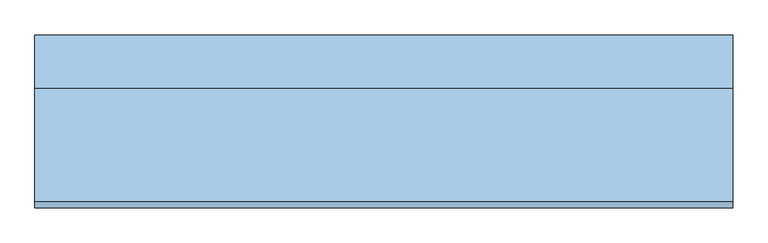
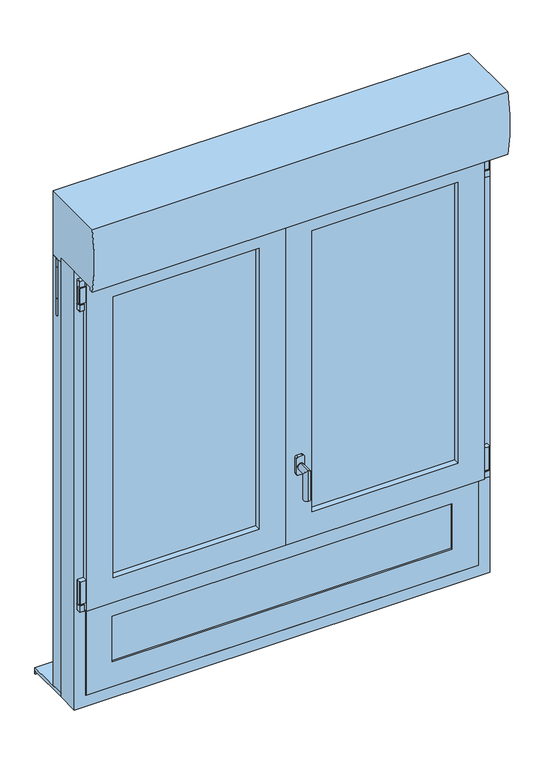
"""IFC4 building model written with IfcOpenShell, lengths in millimetres: window geometry, 7. OF2 ENR + Fixe en B PVC-ALU : 130X165 (LXH) cm."""

from ifc_helpers import new_model, si_unit, point, frame, frame_2d, origin, place, context, project, spatial, polyline, circle_curve, ellipse_curve, trimmed, segment, composite_curve, outline, extrude, faceted_brep, source, transform, mapped, element, save
from ifc_brep_helpers import plane_surface, cylinder_surface, advanced_brep


def window_a40efb40(model_context):
    return source(origin(), model_context, "Body", "SolidModel", [
        extrude(outline(composite_curve([segment(polyline([(2201.5409737, -626.552), (2219.5732983, -626.552)]), True, "CONTINUOUS"), segment(trimmed(circle_curve(frame_2d((2219.5732983, -628.5196754)), 1.9676754), [point((2219.5732983, -626.552))], [point((2221.5409737, -628.5196754))], False, "CARTESIAN"), True, "CONTINUOUS"), segment(polyline([(2221.5409737, -628.5196754), (2221.5409737, -639.5583831)]), True, "CONTINUOUS"), segment(trimmed(circle_curve(frame_2d((2219.5473568, -639.5583831)), 1.9936169), [point((2221.5409737, -639.5583831))], [point((2219.5473568, -641.552))], False, "CARTESIAN"), True, "CONTINUOUS"), segment(polyline([(2219.5473568, -641.552), (2201.5409737, -641.552), (2201.5409737, -626.552)]), True, "CONTINUOUS")], self_intersect=False)), frame((0.0, -115.0338923, 0.0), z_axis=(0.0, 1.0, 0.0), x_axis=(0.0, 0.0, 1.0)), (0.0, 0.0, 1.0), 15.0),
        extrude(outline(composite_curve([segment(trimmed(circle_curve(frame_2d((-634.2725562, -107.5434807)), 5.0), [point((-629.2725562, -107.5434807))], [point((-639.2725562, -107.5434807))], False, "CARTESIAN"), True, "CONTINUOUS"), segment(trimmed(circle_curve(frame_2d((-634.2725562, -107.5434807)), 5.0), [point((-639.2725562, -107.5434807))], [point((-629.2725562, -107.5434807))], False, "CARTESIAN"), True, "CONTINUOUS")], self_intersect=False)), frame((0.0, 0.0, 2141.5409737), z_axis=(0.0, 0.0, 1.0), x_axis=(1.0, 0.0, 0.0)), (0.0, 0.0, 1.0), 60.0),
        extrude(outline(composite_curve([segment(polyline([(-621.552, -100.0434807), (-621.552, -115.0434807), (-639.5338225, -115.0434807)]), True, "CONTINUOUS"), segment(trimmed(circle_curve(frame_2d((-639.5338225, -113.0253033)), 2.0181775), [point((-639.5338225, -115.0434807))], [point((-641.552, -113.0253033))], False, "CARTESIAN"), True, "CONTINUOUS"), segment(polyline([(-641.552, -113.0253033), (-641.552, -102.001657)]), True, "CONTINUOUS"), segment(trimmed(circle_curve(frame_2d((-639.5938237, -102.001657)), 1.9581763), [point((-641.552, -102.001657))], [point((-639.5938237, -100.0434807))], False, "CARTESIAN"), True, "CONTINUOUS"), segment(polyline([(-639.5938237, -100.0434807), (-621.552, -100.0434807)]), True, "CONTINUOUS")], self_intersect=False)), frame((0.0, 0.0, 2147.2674355), z_axis=(0.0, 0.0, 1.0), x_axis=(1.0, 0.0, 0.0)), (0.0, 0.0, 1.0), 50.0),
        extrude(outline(composite_curve([segment(polyline([(2142.2674355, -641.7725562), (2123.9176409, -641.7725562)]), True, "CONTINUOUS"), segment(trimmed(circle_curve(frame_2d((2124.2411049, -639.7988867)), 2.0), [point((2123.9176409, -641.7725562))], [point((2122.2674355, -640.1223507))], False, "CARTESIAN"), True, "CONTINUOUS"), segment(polyline([(2122.2674355, -640.1223507), (2122.2674355, -628.7818059)]), True, "CONTINUOUS"), segment(trimmed(circle_curve(frame_2d((2124.2766853, -628.7818059)), 2.0092498), [point((2122.2674355, -628.7818059))], [point((2124.2766853, -626.7725562))], False, "CARTESIAN"), True, "CONTINUOUS"), segment(polyline([(2124.2766853, -626.7725562), (2142.2674355, -626.7725562), (2142.2674355, -641.7725562)]), True, "CONTINUOUS")], self_intersect=False)), frame((0.0, -115.0338923, 0.0), z_axis=(0.0, 1.0, 0.0), x_axis=(0.0, 0.0, 1.0)), (0.0, 0.0, 1.0), 15.0),
        extrude(outline(composite_curve([segment(trimmed(circle_curve(frame_2d((-634.2725562, -107.5434807)), 5.0), [point((-629.2725562, -107.5434807))], [point((-639.2725562, -107.5434807))], False, "CARTESIAN"), True, "CONTINUOUS"), segment(trimmed(circle_curve(frame_2d((-634.2725562, -107.5434807)), 5.0), [point((-639.2725562, -107.5434807))], [point((-629.2725562, -107.5434807))], False, "CARTESIAN"), True, "CONTINUOUS")], self_intersect=False)), frame((0.0, 0.0, 1148.448), z_axis=(0.0, 0.0, 1.0), x_axis=(1.0, 0.0, 0.0)), (0.0, 0.0, 1.0), 5.0),
        extrude(outline(composite_curve([segment(polyline([(1148.448, -641.7725562), (1130.0982054, -641.7725562)]), True, "CONTINUOUS"), segment(trimmed(circle_curve(frame_2d((1130.4216694, -639.7988867)), 2.0), [point((1130.0982054, -641.7725562))], [point((1128.448, -640.1223507))], False, "CARTESIAN"), True, "CONTINUOUS"), segment(polyline([(1128.448, -640.1223507), (1128.448, -628.7818059)]), True, "CONTINUOUS"), segment(trimmed(circle_curve(frame_2d((1130.4572498, -628.7818059)), 2.0092498), [point((1128.448, -628.7818059))], [point((1130.4572498, -626.7725562))], False, "CARTESIAN"), True, "CONTINUOUS"), segment(polyline([(1130.4572498, -626.7725562), (1148.448, -626.7725562), (1148.448, -641.7725562)]), True, "CONTINUOUS")], self_intersect=False)), frame((0.0, -115.0338923, 0.0), z_axis=(0.0, 1.0, 0.0), x_axis=(0.0, 0.0, 1.0)), (0.0, 0.0, 1.0), 15.0),
        extrude(outline(composite_curve([segment(polyline([(-621.552, -100.0434807), (-621.552, -115.0434807), (-639.5338225, -115.0434807)]), True, "CONTINUOUS"), segment(trimmed(circle_curve(frame_2d((-639.5338225, -113.0253033)), 2.0181775), [point((-639.5338225, -115.0434807))], [point((-641.552, -113.0253033))], False, "CARTESIAN"), True, "CONTINUOUS"), segment(polyline([(-641.552, -113.0253033), (-641.552, -102.001657)]), True, "CONTINUOUS"), segment(trimmed(circle_curve(frame_2d((-639.5938237, -102.001657)), 1.9581763), [point((-641.552, -102.001657))], [point((-639.5938237, -100.0434807))], False, "CARTESIAN"), True, "CONTINUOUS"), segment(polyline([(-639.5938237, -100.0434807), (-621.552, -100.0434807)]), True, "CONTINUOUS")], self_intersect=False)), frame((0.0, 0.0, 1153.448), z_axis=(0.0, 0.0, 1.0), x_axis=(1.0, 0.0, 0.0)), (0.0, 0.0, 1.0), 75.0),
        extrude(outline(composite_curve([segment(polyline([(2201.5409737, 626.552), (2201.5409737, 641.552), (2219.5473568, 641.552)]), True, "CONTINUOUS"), segment(trimmed(circle_curve(frame_2d((2219.5473568, 639.5583831)), 1.9936169), [point((2219.5473568, 641.552))], [point((2221.5409737, 639.5583831))], False, "CARTESIAN"), True, "CONTINUOUS"), segment(polyline([(2221.5409737, 639.5583831), (2221.5409737, 628.5196754)]), True, "CONTINUOUS"), segment(trimmed(circle_curve(frame_2d((2219.5732983, 628.5196754)), 1.9676754), [point((2221.5409737, 628.5196754))], [point((2219.5732983, 626.552))], False, "CARTESIAN"), True, "CONTINUOUS"), segment(polyline([(2219.5732983, 626.552), (2201.5409737, 626.552)]), True, "CONTINUOUS")], self_intersect=False)), frame((0.0, -115.0338923, 0.0), z_axis=(0.0, 1.0, 0.0), x_axis=(0.0, 0.0, 1.0)), (0.0, 0.0, 1.0), 15.0),
        extrude(outline(composite_curve([segment(trimmed(circle_curve(frame_2d((634.2725562, -107.5434807)), 5.0), [point((629.2725562, -107.5434807))], [point((639.2725562, -107.5434807))], False, "CARTESIAN"), True, "CONTINUOUS"), segment(trimmed(circle_curve(frame_2d((634.2725562, -107.5434807)), 5.0), [point((639.2725562, -107.5434807))], [point((629.2725562, -107.5434807))], False, "CARTESIAN"), True, "CONTINUOUS")], self_intersect=False)), frame((0.0, 0.0, 2141.5409737), z_axis=(0.0, 0.0, 1.0), x_axis=(1.0, 0.0, 0.0)), (0.0, 0.0, 1.0), 60.0),
        extrude(outline(composite_curve([segment(polyline([(621.552, -100.0434807), (639.5938237, -100.0434807)]), True, "CONTINUOUS"), segment(trimmed(circle_curve(frame_2d((639.5938237, -102.001657)), 1.9581763), [point((639.5938237, -100.0434807))], [point((641.552, -102.001657))], False, "CARTESIAN"), True, "CONTINUOUS"), segment(polyline([(641.552, -102.001657), (641.552, -113.0253033)]), True, "CONTINUOUS"), segment(trimmed(circle_curve(frame_2d((639.5338225, -113.0253033)), 2.0181775), [point((641.552, -113.0253033))], [point((639.5338225, -115.0434807))], False, "CARTESIAN"), True, "CONTINUOUS"), segment(polyline([(639.5338225, -115.0434807), (621.552, -115.0434807), (621.552, -100.0434807)]), True, "CONTINUOUS")], self_intersect=False)), frame((0.0, 0.0, 2147.2674355), z_axis=(0.0, 0.0, 1.0), x_axis=(1.0, 0.0, 0.0)), (0.0, 0.0, 1.0), 50.0),
        extrude(outline(composite_curve([segment(polyline([(2142.2674355, 641.7725562), (2142.2674355, 626.7725562), (2124.2766853, 626.7725562)]), True, "CONTINUOUS"), segment(trimmed(circle_curve(frame_2d((2124.2766853, 628.7818059)), 2.0092498), [point((2124.2766853, 626.7725562))], [point((2122.2674355, 628.7818059))], False, "CARTESIAN"), True, "CONTINUOUS"), segment(polyline([(2122.2674355, 628.7818059), (2122.2674355, 640.1223507)]), True, "CONTINUOUS"), segment(trimmed(circle_curve(frame_2d((2124.2411049, 639.7988867)), 2.0), [point((2122.2674355, 640.1223507))], [point((2123.9176409, 641.7725562))], False, "CARTESIAN"), True, "CONTINUOUS"), segment(polyline([(2123.9176409, 641.7725562), (2142.2674355, 641.7725562)]), True, "CONTINUOUS")], self_intersect=False)), frame((0.0, -115.0338923, 0.0), z_axis=(0.0, 1.0, 0.0), x_axis=(0.0, 0.0, 1.0)), (0.0, 0.0, 1.0), 15.0),
        extrude(outline(composite_curve([segment(trimmed(circle_curve(frame_2d((634.2725562, -107.5434807)), 5.0), [point((629.2725562, -107.5434807))], [point((639.2725562, -107.5434807))], False, "CARTESIAN"), True, "CONTINUOUS"), segment(trimmed(circle_curve(frame_2d((634.2725562, -107.5434807)), 5.0), [point((639.2725562, -107.5434807))], [point((629.2725562, -107.5434807))], False, "CARTESIAN"), True, "CONTINUOUS")], self_intersect=False)), frame((0.0, 0.0, 1148.448), z_axis=(0.0, 0.0, 1.0), x_axis=(1.0, 0.0, 0.0)), (0.0, 0.0, 1.0), 5.0),
        extrude(outline(composite_curve([segment(polyline([(1148.448, 641.7725562), (1148.448, 626.7725562), (1130.4572498, 626.7725562)]), True, "CONTINUOUS"), segment(trimmed(circle_curve(frame_2d((1130.4572498, 628.7818059)), 2.0092498), [point((1130.4572498, 626.7725562))], [point((1128.448, 628.7818059))], False, "CARTESIAN"), True, "CONTINUOUS"), segment(polyline([(1128.448, 628.7818059), (1128.448, 640.1223507)]), True, "CONTINUOUS"), segment(trimmed(circle_curve(frame_2d((1130.4216694, 639.7988867)), 2.0), [point((1128.448, 640.1223507))], [point((1130.0982054, 641.7725562))], False, "CARTESIAN"), True, "CONTINUOUS"), segment(polyline([(1130.0982054, 641.7725562), (1148.448, 641.7725562)]), True, "CONTINUOUS")], self_intersect=False)), frame((0.0, -115.0338923, 0.0), z_axis=(0.0, 1.0, 0.0), x_axis=(0.0, 0.0, 1.0)), (0.0, 0.0, 1.0), 15.0),
        extrude(outline(composite_curve([segment(polyline([(621.552, -100.0434807), (639.5938237, -100.0434807)]), True, "CONTINUOUS"), segment(trimmed(circle_curve(frame_2d((639.5938237, -102.001657)), 1.9581763), [point((639.5938237, -100.0434807))], [point((641.552, -102.001657))], False, "CARTESIAN"), True, "CONTINUOUS"), segment(polyline([(641.552, -102.001657), (641.552, -113.0253033)]), True, "CONTINUOUS"), segment(trimmed(circle_curve(frame_2d((639.5338225, -113.0253033)), 2.0181775), [point((641.552, -113.0253033))], [point((639.5338225, -115.0434807))], False, "CARTESIAN"), True, "CONTINUOUS"), segment(polyline([(639.5338225, -115.0434807), (621.552, -115.0434807), (621.552, -100.0434807)]), True, "CONTINUOUS")], self_intersect=False)), frame((0.0, 0.0, 1153.448), z_axis=(0.0, 0.0, 1.0), x_axis=(1.0, 0.0, 0.0)), (0.0, 0.0, 1.0), 75.0),
        faceted_brep([(649.992, -28.9, 2250.0), (649.992, -100.02, 2250.0), (649.992, -100.02, 800.0), (649.992, -28.9, 800.0), (-650.008, -100.02, 2250.0), (-650.008, -100.02, 800.0), (613.416, -100.02, 836.576), (-613.432, -100.02, 836.576), (-613.432, -100.02, 2213.424), (613.416, -100.02, 2213.424), (-650.008, -28.9, 800.0), (-650.008, -28.9, 2250.0), (592.0903858, -28.9, 2192.0983858), (-592.1063858, -28.9, 2192.0983858), (-592.1063858, -28.9, 857.9016142), (592.0903858, -28.9, 857.9016142), (613.416, -44.648, 2213.424), (613.416, -44.648, 836.576), (-613.432, -44.648, 2213.424), (-613.432, -44.648, 836.576), (592.0903858, -44.648, 857.9016142), (-592.1063858, -44.648, 857.9016142), (-592.1063858, -44.648, 2192.0983858), (592.0903858, -44.648, 2192.0983858)], [[[0, 1, 2, 3]], [[1, 4, 5, 2], [6, 7, 8, 9]], [[3, 2, 5, 10]], [[3, 10, 11, 0], [12, 13, 14, 15]], [[9, 16, 17, 6]], [[16, 18, 19, 17], [20, 21, 22, 23]], [[6, 17, 19, 7]], [[23, 12, 15, 20]], [[20, 15, 14, 21]], [[10, 5, 4, 11]], [[7, 19, 18, 8]], [[21, 14, 13, 22]], [[11, 4, 1, 0]], [[8, 18, 16, 9]], [[22, 13, 12, 23]]]),
        faceted_brep([(-650.0, -100.02, 2250.0), (-650.0, -28.9, 2250.0), (-650.0, -28.9, 800.0), (-650.0, -100.02, 800.0), (650.0, -28.9, 2250.0), (650.0, -28.9, 800.0), (-592.0983858, -28.9, 857.9016142), (592.0983858, -28.9, 857.9016142), (592.0983858, -28.9, 2192.0983858), (-592.0983858, -28.9, 2192.0983858), (650.0, -100.02, 800.0), (650.0, -100.02, 2250.0), (-613.424, -100.02, 2213.424), (613.424, -100.02, 2213.424), (613.424, -100.02, 836.576), (-613.424, -100.02, 836.576), (-613.424, -44.648, 2213.424), (-613.424, -44.648, 836.576), (613.424, -44.648, 836.576), (613.424, -44.648, 2213.424), (-592.0983858, -44.648, 2192.0983858), (592.0983858, -44.648, 2192.0983858), (592.0983858, -44.648, 857.9016142), (-592.0983858, -44.648, 857.9016142)], [[[0, 1, 2, 3]], [[1, 4, 5, 2], [6, 7, 8, 9]], [[3, 2, 5, 10]], [[3, 10, 11, 0], [12, 13, 14, 15]], [[16, 12, 15, 17]], [[17, 15, 14, 18]], [[17, 18, 19, 16], [20, 21, 22, 23]], [[9, 20, 23, 6]], [[6, 23, 22, 7]], [[10, 5, 4, 11]], [[18, 14, 13, 19]], [[7, 22, 21, 8]], [[11, 4, 1, 0]], [[19, 13, 12, 16]], [[8, 21, 20, 9]]]),
        extrude(outline(polyline([(35.0, -44.7), (20.3, -44.7), (20.3, -100.3), (-20.3, -100.3), (-20.3, -44.7), (-35.0, -44.7), (-35.0, -28.9), (35.0, -28.9), (35.0, -44.7)])), frame((0.0, 0.0, 1150.8582947), z_axis=(0.0, 0.0, 1.0), x_axis=(1.0, 0.0, 0.0)), (0.0, 0.0, 1.0), 1064.7),
        faceted_brep([(0.004, -100.0434807, 2221.552), (0.004, -119.3239543, 2221.552), (0.004, -119.3239543, 1128.448), (0.004, -100.0434807, 1128.448), (-82.1974957, -119.3239543, 2139.3505043), (-82.1974957, -100.019954, 2139.3505043), (-82.1974957, -100.019954, 1210.6494957), (-82.1974957, -119.3239543, 1210.6494957), (-59.9393299, -100.019954, 2161.6086701), (-59.9393299, -48.2039543, 2161.6086701), (-59.9393299, -48.2039543, 1188.3913299), (-59.9393299, -100.019954, 1188.3913299), (-29.4496142, -48.2039543, 2192.0983858), (-29.4496142, -44.648, 2192.0983858), (-29.4496142, -44.648, 1157.9016142), (-29.4496142, -48.2039543, 1157.9016142), (-20.316, -44.648, 2201.232), (-20.316, -100.0434807, 2201.232), (-20.316, -100.0434807, 1148.768), (-20.316, -44.648, 1148.768), (-621.552, -119.3239543, 1128.448), (-621.552, -100.0434807, 1128.448), (-539.3505043, -100.019954, 1210.6494957), (-539.3505043, -119.3239543, 1210.6494957), (-561.6086701, -48.2039543, 1188.3913299), (-561.6086701, -100.019954, 1188.3913299), (-592.0983858, -44.648, 1157.9016142), (-592.0983858, -48.2039543, 1157.9016142), (-601.232, -100.0434807, 1148.768), (-601.232, -44.648, 1148.768), (-621.552, -119.3239543, 2221.552), (-621.552, -100.0434807, 2221.552), (-539.3505043, -100.019954, 2139.3505043), (-539.3505043, -119.3239543, 2139.3505043), (-561.6086701, -48.2039543, 2161.6086701), (-561.6086701, -100.019954, 2161.6086701), (-592.0983858, -44.648, 2192.0983858), (-592.0983858, -48.2039543, 2192.0983858), (-601.232, -100.0434807, 2201.232), (-601.232, -44.648, 2201.232)], [[[0, 1, 2, 3]], [[4, 5, 6, 7]], [[8, 9, 10, 11]], [[12, 13, 14, 15]], [[16, 17, 18, 19]], [[3, 2, 20, 21]], [[7, 6, 22, 23]], [[11, 10, 24, 25]], [[15, 14, 26, 27]], [[19, 18, 28, 29]], [[21, 20, 30, 31]], [[23, 22, 32, 33]], [[25, 24, 34, 35]], [[27, 26, 36, 37]], [[29, 28, 38, 39]], [[3, 21, 31, 0], [17, 38, 28, 18]], [[31, 30, 1, 0]], [[1, 30, 20, 2], [7, 23, 33, 4]], [[33, 32, 5, 4]], [[11, 25, 35, 8], [5, 32, 22, 6]], [[35, 34, 9, 8]], [[15, 27, 37, 12], [9, 34, 24, 10]], [[37, 36, 13, 12]], [[19, 29, 39, 16], [13, 36, 26, 14]], [[39, 38, 17, 16]]]),
        faceted_brep([(-561.6086701, -100.019954, 2161.6086701), (-561.6086701, -48.2039543, 2161.6086701), (-561.6086701, -48.2039543, 1188.3913299), (-561.6086701, -100.019954, 1188.3913299), (-586.5514701, -48.2039543, 2186.5514701), (-586.5514701, -28.7475756, 2186.5514701), (-586.5514701, -28.7475756, 1163.4485299), (-586.5514701, -48.2039543, 1163.4485299), (-535.3393386, -28.7475756, 2135.3393386), (-535.3393386, -41.9786213, 2135.3393386), (-535.3393386, -41.9786213, 1214.6606614), (-535.3393386, -28.7475756, 1214.6606614), (-539.5240492, -72.9786213, 2139.5240492), (-539.5240492, -96.019954, 2139.5240492), (-539.5240492, -96.019954, 1210.4759508), (-539.5240492, -72.9786213, 1210.4759508), (-59.9393299, -48.2039543, 1188.3913299), (-59.9393299, -100.019954, 1188.3913299), (-34.9965299, -28.7475756, 1163.4485299), (-34.9965299, -48.2039543, 1163.4485299), (-86.2086614, -41.9786213, 1214.6606614), (-86.2086614, -28.7475756, 1214.6606614), (-82.0239508, -96.019954, 1210.4759508), (-82.0239508, -72.9786213, 1210.4759508), (-59.9393299, -48.2039543, 2161.6086701), (-59.9393299, -100.019954, 2161.6086701), (-34.9965299, -28.7475756, 2186.5514701), (-34.9965299, -48.2039543, 2186.5514701), (-86.2086614, -41.9786213, 2135.3393386), (-86.2086614, -28.7475756, 2135.3393386), (-82.0239508, -96.019954, 2139.5240492), (-82.0239508, -72.9786213, 2139.5240492), (-553.4175117, -100.019954, 2153.4175117), (-68.1304883, -100.019954, 2153.4175117), (-68.1304883, -100.019954, 1196.5824883), (-553.4175117, -100.019954, 1196.5824883), (-553.4175117, -72.9786213, 2153.4175117), (-68.1304883, -72.9786213, 2153.4175117), (-68.1304883, -72.9786213, 1196.5824883), (-553.4175117, -72.9786213, 1196.5824883), (-553.4175117, -96.019954, 2153.4175117), (-553.4175117, -96.019954, 1196.5824883), (-553.4175117, -68.9786213, 2153.4175117), (-553.4175117, -68.9786213, 1196.5824883), (-68.1304883, -96.019954, 1196.5824883), (-68.1304883, -68.9786213, 1196.5824883), (-68.1304883, -96.019954, 2153.4175117), (-68.1304883, -68.9786213, 2153.4175117), (-536.1974041, -68.9786213, 2136.1974041), (-85.3505959, -68.9786213, 2136.1974041), (-85.3505959, -68.9786213, 1213.8025959), (-536.1974041, -68.9786213, 1213.8025959), (-553.4175117, -41.9786213, 2153.4175117), (-553.4175117, -45.9786213, 2153.4175117), (-553.4175117, -45.9786213, 1196.5824883), (-553.4175117, -41.9786213, 1196.5824883), (-536.1974041, -45.9786213, 2136.1974041), (-536.1974041, -45.9786213, 1213.8025959), (-68.1304883, -45.9786213, 1196.5824883), (-68.1304883, -41.9786213, 1196.5824883), (-85.3505959, -45.9786213, 1213.8025959), (-68.1304883, -45.9786213, 2153.4175117), (-68.1304883, -41.9786213, 2153.4175117), (-85.3505959, -45.9786213, 2136.1974041)], [[[0, 1, 2, 3]], [[4, 5, 6, 7]], [[8, 9, 10, 11]], [[12, 13, 14, 15]], [[3, 2, 16, 17]], [[7, 6, 18, 19]], [[11, 10, 20, 21]], [[15, 14, 22, 23]], [[17, 16, 24, 25]], [[19, 18, 26, 27]], [[21, 20, 28, 29]], [[23, 22, 30, 31]], [[3, 17, 25, 0], [32, 33, 34, 35]], [[25, 24, 1, 0]], [[7, 19, 27, 4], [1, 24, 16, 2]], [[27, 26, 5, 4]], [[5, 26, 18, 6], [11, 21, 29, 8]], [[29, 28, 9, 8]], [[36, 37, 38, 39], [15, 23, 31, 12]], [[31, 30, 13, 12]], [[40, 32, 35, 41]], [[42, 36, 39, 43]], [[41, 35, 34, 44]], [[43, 39, 38, 45]], [[44, 34, 33, 46]], [[45, 38, 37, 47]], [[41, 44, 46, 40], [13, 30, 22, 14]], [[46, 33, 32, 40]], [[43, 45, 47, 42], [48, 49, 50, 51]], [[47, 37, 36, 42]], [[52, 53, 54, 55]], [[56, 48, 51, 57]], [[55, 54, 58, 59]], [[57, 51, 50, 60]], [[59, 58, 61, 62]], [[60, 50, 49, 63]], [[55, 59, 62, 52], [9, 28, 20, 10]], [[62, 61, 53, 52]], [[53, 61, 58, 54], [57, 60, 63, 56]], [[63, 49, 48, 56]]]),
        extrude(outline(polyline([(-553.4, -100.019954), (-553.4, -96.019954), (-68.1, -96.019954), (-68.1, -100.019954), (-553.4, -100.019954)])), frame((0.0, 0.0, 1196.5824883), z_axis=(0.0, 0.0, 1.0), x_axis=(1.0, 0.0, 0.0)), (0.0, 0.0, 1.0), 956.8350233),
        extrude(outline(polyline([(-553.4, -72.9786213), (-553.4, -68.9786213), (-68.1, -68.9786213), (-68.1, -72.9786213), (-553.4, -72.9786213)])), frame((0.0, 0.0, 1196.5824883), z_axis=(0.0, 0.0, 1.0), x_axis=(1.0, 0.0, 0.0)), (0.0, 0.0, 1.0), 956.8350233),
        extrude(outline(polyline([(-553.4, -45.9786213), (-553.4, -41.9786213), (-68.1, -41.9786213), (-68.1, -45.9786213), (-553.4, -45.9786213)])), frame((0.0, 0.0, 1196.5824883), z_axis=(0.0, 0.0, 1.0), x_axis=(1.0, 0.0, 0.0)), (0.0, 0.0, 1.0), 956.8350233),
        extrude(outline(polyline([(553.4, -96.019954), (553.4, -100.019954), (68.1, -100.019954), (68.1, -96.019954), (553.4, -96.019954)])), frame((0.0, 0.0, 1196.5824883), z_axis=(0.0, 0.0, 1.0), x_axis=(1.0, 0.0, 0.0)), (0.0, 0.0, 1.0), 956.8350233),
        extrude(outline(polyline([(553.4, -68.9786213), (553.4, -72.9786213), (68.1, -72.9786213), (68.1, -68.9786213), (553.4, -68.9786213)])), frame((0.0, 0.0, 1196.5824883), z_axis=(0.0, 0.0, 1.0), x_axis=(1.0, 0.0, 0.0)), (0.0, 0.0, 1.0), 956.8350233),
        extrude(outline(polyline([(553.4, -41.9786213), (553.4, -45.9786213), (68.1, -45.9786213), (68.1, -41.9786213), (553.4, -41.9786213)])), frame((0.0, 0.0, 1196.5824883), z_axis=(0.0, 0.0, 1.0), x_axis=(1.0, 0.0, 0.0)), (0.0, 0.0, 1.0), 956.8350233),
        faceted_brep([(561.6086701, -48.2039543, 2161.6086701), (561.6086701, -100.019954, 2161.6086701), (561.6086701, -100.019954, 1188.3913299), (561.6086701, -48.2039543, 1188.3913299), (586.5514701, -28.7475756, 2186.5514701), (586.5514701, -48.2039543, 2186.5514701), (586.5514701, -48.2039543, 1163.4485299), (586.5514701, -28.7475756, 1163.4485299), (535.3393386, -41.9786213, 2135.3393386), (535.3393386, -28.7475756, 2135.3393386), (535.3393386, -28.7475756, 1214.6606614), (535.3393386, -41.9786213, 1214.6606614), (539.5240492, -96.019954, 2139.5240492), (539.5240492, -72.9786213, 2139.5240492), (539.5240492, -72.9786213, 1210.4759508), (539.5240492, -96.019954, 1210.4759508), (59.9393299, -100.019954, 1188.3913299), (59.9393299, -48.2039543, 1188.3913299), (34.9965299, -48.2039543, 1163.4485299), (34.9965299, -28.7475756, 1163.4485299), (86.2086614, -28.7475756, 1214.6606614), (86.2086614, -41.9786213, 1214.6606614), (82.0239508, -72.9786213, 1210.4759508), (82.0239508, -96.019954, 1210.4759508), (59.9393299, -100.019954, 2161.6086701), (59.9393299, -48.2039543, 2161.6086701), (34.9965299, -48.2039543, 2186.5514701), (34.9965299, -28.7475756, 2186.5514701), (86.2086614, -28.7475756, 2135.3393386), (86.2086614, -41.9786213, 2135.3393386), (82.0239508, -72.9786213, 2139.5240492), (82.0239508, -96.019954, 2139.5240492), (553.4175117, -100.019954, 1196.5824883), (68.1304883, -100.019954, 1196.5824883), (68.1304883, -100.019954, 2153.4175117), (553.4175117, -100.019954, 2153.4175117), (553.4175117, -72.9786213, 1196.5824883), (68.1304883, -72.9786213, 1196.5824883), (68.1304883, -72.9786213, 2153.4175117), (553.4175117, -72.9786213, 2153.4175117), (553.4175117, -96.019954, 2153.4175117), (553.4175117, -96.019954, 1196.5824883), (553.4175117, -68.9786213, 2153.4175117), (553.4175117, -68.9786213, 1196.5824883), (68.1304883, -96.019954, 1196.5824883), (68.1304883, -68.9786213, 1196.5824883), (68.1304883, -96.019954, 2153.4175117), (68.1304883, -68.9786213, 2153.4175117), (536.1974041, -68.9786213, 1213.8025959), (85.3505959, -68.9786213, 1213.8025959), (85.3505959, -68.9786213, 2136.1974041), (536.1974041, -68.9786213, 2136.1974041), (553.4175117, -45.9786213, 2153.4175117), (553.4175117, -41.9786213, 2153.4175117), (553.4175117, -41.9786213, 1196.5824883), (553.4175117, -45.9786213, 1196.5824883), (536.1974041, -45.9786213, 2136.1974041), (536.1974041, -45.9786213, 1213.8025959), (68.1304883, -41.9786213, 1196.5824883), (68.1304883, -45.9786213, 1196.5824883), (85.3505959, -45.9786213, 1213.8025959), (68.1304883, -41.9786213, 2153.4175117), (68.1304883, -45.9786213, 2153.4175117), (85.3505959, -45.9786213, 2136.1974041)], [[[0, 1, 2, 3]], [[4, 5, 6, 7]], [[8, 9, 10, 11]], [[12, 13, 14, 15]], [[3, 2, 16, 17]], [[7, 6, 18, 19]], [[11, 10, 20, 21]], [[15, 14, 22, 23]], [[17, 16, 24, 25]], [[19, 18, 26, 27]], [[21, 20, 28, 29]], [[23, 22, 30, 31]], [[1, 24, 16, 2], [32, 33, 34, 35]], [[25, 24, 1, 0]], [[5, 26, 18, 6], [3, 17, 25, 0]], [[27, 26, 5, 4]], [[7, 19, 27, 4], [9, 28, 20, 10]], [[29, 28, 9, 8]], [[36, 37, 38, 39], [13, 30, 22, 14]], [[31, 30, 13, 12]], [[35, 40, 41, 32]], [[39, 42, 43, 36]], [[32, 41, 44, 33]], [[36, 43, 45, 37]], [[33, 44, 46, 34]], [[37, 45, 47, 38]], [[40, 46, 44, 41], [15, 23, 31, 12]], [[34, 46, 40, 35]], [[42, 47, 45, 43], [48, 49, 50, 51]], [[38, 47, 42, 39]], [[52, 53, 54, 55]], [[51, 56, 57, 48]], [[55, 54, 58, 59]], [[48, 57, 60, 49]], [[59, 58, 61, 62]], [[49, 60, 63, 50]], [[53, 61, 58, 54], [11, 21, 29, 8]], [[62, 61, 53, 52]], [[55, 59, 62, 52], [56, 63, 60, 57]], [[50, 63, 56, 51]]]),
        faceted_brep([(-0.004, -119.3239543, 2221.552), (-0.004, -100.0434807, 2221.552), (-0.004, -100.0434807, 1128.448), (-0.004, -119.3239543, 1128.448), (82.1974957, -100.019954, 2139.3505043), (82.1974957, -119.3239543, 2139.3505043), (82.1974957, -119.3239543, 1210.6494957), (82.1974957, -100.019954, 1210.6494957), (59.9393299, -48.2039543, 2161.6086701), (59.9393299, -100.019954, 2161.6086701), (59.9393299, -100.019954, 1188.3913299), (59.9393299, -48.2039543, 1188.3913299), (29.4496142, -44.648, 2192.0983858), (29.4496142, -48.2039543, 2192.0983858), (29.4496142, -48.2039543, 1157.9016142), (29.4496142, -44.648, 1157.9016142), (20.316, -100.0434807, 2201.232), (20.316, -44.648, 2201.232), (20.316, -44.648, 1148.768), (20.316, -100.0434807, 1148.768), (621.552, -100.0434807, 1128.448), (621.552, -119.3239543, 1128.448), (539.3505043, -119.3239543, 1210.6494957), (539.3505043, -100.019954, 1210.6494957), (561.6086701, -100.019954, 1188.3913299), (561.6086701, -48.2039543, 1188.3913299), (592.0983858, -48.2039543, 1157.9016142), (592.0983858, -44.648, 1157.9016142), (601.232, -44.648, 1148.768), (601.232, -100.0434807, 1148.768), (621.552, -100.0434807, 2221.552), (621.552, -119.3239543, 2221.552), (539.3505043, -119.3239543, 2139.3505043), (539.3505043, -100.019954, 2139.3505043), (561.6086701, -100.019954, 2161.6086701), (561.6086701, -48.2039543, 2161.6086701), (592.0983858, -48.2039543, 2192.0983858), (592.0983858, -44.648, 2192.0983858), (601.232, -44.648, 2201.232), (601.232, -100.0434807, 2201.232)], [[[0, 1, 2, 3]], [[4, 5, 6, 7]], [[8, 9, 10, 11]], [[12, 13, 14, 15]], [[16, 17, 18, 19]], [[3, 2, 20, 21]], [[7, 6, 22, 23]], [[11, 10, 24, 25]], [[15, 14, 26, 27]], [[19, 18, 28, 29]], [[21, 20, 30, 31]], [[23, 22, 32, 33]], [[25, 24, 34, 35]], [[27, 26, 36, 37]], [[29, 28, 38, 39]], [[1, 30, 20, 2], [19, 29, 39, 16]], [[31, 30, 1, 0]], [[3, 21, 31, 0], [5, 32, 22, 6]], [[33, 32, 5, 4]], [[9, 34, 24, 10], [7, 23, 33, 4]], [[35, 34, 9, 8]], [[13, 36, 26, 14], [11, 25, 35, 8]], [[37, 36, 13, 12]], [[17, 38, 28, 18], [15, 27, 37, 12]], [[39, 38, 17, 16]]]),
        extrude(outline(composite_curve([segment(polyline([(-186.3991192, 2240.3409737), (-197.3316724, 2240.3409737)]), True, "CONTINUOUS"), segment(trimmed(circle_curve(frame_2d((189.1050523, 2343.6204869)), 400.0), [point((-197.3316724, 2240.3409737))], [point((-197.3316724, 2446.9))], False, "CARTESIAN"), True, "CONTINUOUS"), segment(polyline([(-197.3316724, 2446.9), (13.0999994, 2446.9), (13.0999994, 2236.0216226), (-4.9499979, 2236.0216226), (-4.9499979, 2234.2216225), (-2.7215215, 2234.2216225), (-2.7215215, 2209.9791617), (-4.9499979, 2209.9791617), (-4.9499979, 2208.1791616), (-2.7215215, 2208.1791616), (-2.7215215, 2183.9367008), (-4.9499979, 2183.9367008), (-4.9499979, 2182.1367006), (-2.7215215, 2182.1367006), (-2.7215215, 2157.8942398), (-4.9499979, 2157.8942398), (-4.9499979, 2156.0942397), (-2.7215215, 2156.0942397), (-2.7215215, 2131.8517789), (-4.9499979, 2131.8517789), (-4.9499979, 2130.0517788), (-2.7215215, 2130.0517788), (-2.7215215, 2105.809318), (-4.9499979, 2105.809318), (-4.9499979, 2104.0093179), (-2.7215215, 2104.0093179), (-2.7215215, 2079.7668571), (-4.9499979, 2079.7668571), (-4.9499979, 2077.966857), (-2.7215215, 2077.966857), (-2.7215215, 2053.7243961), (-4.9499979, 2053.7243961), (-4.9499979, 2051.9243963), (-3.044091, 2051.9243963), (-3.044091, 2048.977424), (-6.4, 2045.6232688), (-9.8999992, 2048.9774251), (-9.8999992, 2051.9243963), (-7.7499979, 2051.9243963), (-7.7499979, 2053.7243961), (-9.9999979, 2053.7243961), (-9.9999979, 2077.9668572), (-7.7499979, 2077.9668572), (-7.7499979, 2079.7668571), (-9.9999979, 2079.7668571), (-9.9999979, 2104.0093181), (-7.7499979, 2104.0093181), (-7.7499979, 2105.809318), (-9.9999979, 2105.809318), (-9.9999979, 2130.051779), (-7.7499979, 2130.051779), (-7.7499979, 2131.8517789), (-9.9999979, 2131.8517789), (-9.9999979, 2156.09424), (-7.7499979, 2156.09424), (-7.7499979, 2157.8942398), (-9.9999979, 2157.8942398), (-9.9999979, 2182.1367009), (-7.7499979, 2182.1367009), (-7.7499979, 2183.9367008), (-9.9999979, 2183.9367008), (-9.9999979, 2208.1791618), (-7.7499979, 2208.1791618), (-7.7499979, 2209.9791617), (-9.9999979, 2209.9791617), (-9.9999979, 2234.2216227), (-7.7499979, 2234.2216227), (-7.7499979, 2236.0216226), (-28.9, 2236.0216226), (-28.9, 2250.0), (-186.3991192, 2250.0), (-186.3991192, 2240.3409737)]), True, "CONTINUOUS")], self_intersect=False)), frame((-650.008, 0.0, 0.0), z_axis=(1.0, 0.0, 0.0), x_axis=(0.0, 1.0, 0.0)), (0.0, 0.0, 1.0), 1300.008),
        advanced_brep(
        [(41.6731873, -129.3239543, 1392.2518349), (41.6731873, -129.3239543, 1372.2518349), (41.6731873, -133.0531938, 1372.2518349), (41.6731873, -133.0531938, 1392.2518349), (41.6731873, -173.0531938, 1392.2518349), (41.6731873, -153.0531938, 1372.2518349), (41.6731873, -173.0531938, 1292.2518349), (41.6731873, -153.0531938, 1292.2518349)],
        [
            (0, 1, circle_curve(frame((41.6731873, -129.3239543, 1382.2518349), z_axis=(0.0, 1.0, 0.0), x_axis=(0.0, 0.0, -1.0)), 10.0)),
            (1, 0, circle_curve(frame((41.6731873, -129.3239543, 1382.2518349), z_axis=(0.0, 1.0, 0.0), x_axis=(0.0, 0.0, -1.0)), 10.0)),
            (2, 3, circle_curve(frame((41.6731873, -133.0531938, 1382.2518349), z_axis=(0.0, -1.0, 0.0), x_axis=(0.0, 0.0, -1.0)), 10.0)),
            (3, 4),
            (4, 5, ellipse_curve(frame((41.6731873, -163.0531938, 1382.2518349), z_axis=(0.0, 0.7071067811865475, 0.7071067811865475), x_axis=(0.0, 0.7071067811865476, -0.7071067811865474)), 14.1421356, 10.0)),
            (5, 2),
            (3, 2, circle_curve(frame((41.6731873, -133.0531938, 1382.2518349), z_axis=(0.0, -1.0, 0.0), x_axis=(0.0, 0.0, -1.0)), 10.0)),
            (5, 4, ellipse_curve(frame((41.6731873, -163.0531938, 1382.2518349), z_axis=(0.0, 0.7071067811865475, 0.7071067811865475), x_axis=(0.0, 0.7071067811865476, -0.7071067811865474)), 14.1421356, 10.0)),
            (6, 7, circle_curve(frame((41.6731873, -163.0531938, 1292.2518349), z_axis=(0.0, 0.0, -1.0), x_axis=(0.0, 1.0, 0.0)), 10.0)),
            (7, 6, circle_curve(frame((41.6731873, -163.0531938, 1292.2518349), z_axis=(0.0, 0.0, -1.0), x_axis=(0.0, 1.0, 0.0)), 10.0)),
            (4, 6),
            (7, 5),
            (0, 3),
            (2, 1),
        ],
        [
            plane_surface(frame((53.896, -129.3239543, 1382.2518349), z_axis=(0.0, 1.0, 0.0), x_axis=(1.0, 0.0, 0.0))),
            cylinder_surface(frame((41.6731873, -133.0531938, 1382.2518349), z_axis=(0.0, 1.0, 0.0), x_axis=(0.0, 0.0, -1.0)), 10.0),
            plane_surface(frame((53.896, -163.0531938, 1292.2518349), z_axis=(0.0, 0.0, -1.0), x_axis=(1.0, 0.0, 0.0))),
            cylinder_surface(frame((41.6731873, -163.0531938, 1382.2518349), z_axis=(0.0, 0.0, 1.0), x_axis=(0.0, 1.0, 0.0)), 10.0),
            cylinder_surface(frame((41.6731873, -129.3239543, 1382.2518349), z_axis=(0.0, 1.0, 0.0), x_axis=(0.0, 0.0, -1.0)), 10.0),
        ],
        [
            (0, [[1, 2]]),
            (1, [[3, 4, 5, 6]]),
            (1, [[7, -6, 8, -4]]),
            (2, [[9, 10]]),
            (3, [[-5, 11, -10, 12]]),
            (3, [[-8, -12, -9, -11]]),
            (4, [[-1, 13, -3, 14]]),
            (4, [[-2, -14, -7, -13]]),
        ],
    ),
        extrude(outline(composite_curve([segment(polyline([(1414.448, 48.896), (1414.448, 33.896)]), True, "CONTINUOUS"), segment(trimmed(circle_curve(frame_2d((1409.448, 33.896)), 5.0), [point((1414.448, 33.896))], [point((1409.448, 28.896))], False, "CARTESIAN"), True, "CONTINUOUS"), segment(polyline([(1409.448, 28.896), (1359.448, 28.896)]), True, "CONTINUOUS"), segment(trimmed(circle_curve(frame_2d((1359.448, 33.896)), 5.0), [point((1359.448, 28.896))], [point((1354.448, 33.896))], False, "CARTESIAN"), True, "CONTINUOUS"), segment(polyline([(1354.448, 33.896), (1354.448, 48.896)]), True, "CONTINUOUS"), segment(trimmed(circle_curve(frame_2d((1359.448, 48.896)), 5.0), [point((1354.448, 48.896))], [point((1359.448, 53.896))], False, "CARTESIAN"), True, "CONTINUOUS"), segment(polyline([(1359.448, 53.896), (1409.448, 53.896)]), True, "CONTINUOUS"), segment(trimmed(circle_curve(frame_2d((1409.448, 48.896)), 5.0), [point((1409.448, 53.896))], [point((1414.448, 48.896))], False, "CARTESIAN"), True, "CONTINUOUS")], self_intersect=False)), frame((0.0, -129.3239543, 0.0), z_axis=(0.0, 1.0, 0.0), x_axis=(0.0, 0.0, 1.0)), (0.0, 0.0, 1.0), 10.0),
        extrude(outline(polyline([(-28.9, 800.0), (-28.9, 812.9639252), (113.0, 809.77529), (113.0, 790.0), (110.0, 790.0), (110.0, 800.0), (-28.9, 800.0)])), frame((-650.0, 0.0, 0.0), z_axis=(1.0, 0.0, 0.0), x_axis=(0.0, 1.0, 0.0)), (0.0, 0.0, 1.0), 1300.0),
        extrude(outline(polyline([(-649.008, -28.9), (-650.008, -28.9), (-650.008, 13.1), (-649.008, 13.1), (-649.008, 2.1), (-629.008, 2.1), (-629.008, -0.9), (-649.008, -0.9), (-649.008, -11.9), (-629.008, -11.9), (-629.008, -14.9), (-649.008, -14.9), (-649.008, -28.9)])), frame((0.0, 0.0, 812.9639252), z_axis=(0.0, 0.0, 1.0), x_axis=(1.0, 0.0, 0.0)), (0.0, 0.0, 1.0), 1423.1),
        extrude(outline(polyline([(649.0, -28.9), (649.0, -14.9), (629.0, -14.9), (629.0, -11.9), (649.0, -11.9), (649.0, -0.9), (629.0, -0.9), (629.0, 2.1), (649.0, 2.1), (649.0, 13.1), (650.0, 13.1), (650.0, -28.9), (649.0, -28.9)])), frame((0.0, 0.0, 812.9639252), z_axis=(0.0, 0.0, 1.0), x_axis=(1.0, 0.0, 0.0)), (0.0, 0.0, 1.0), 1423.1),
        extrude(outline(polyline([(545.3, -91.36618), (545.3, -95.36618), (-545.3, -95.36618), (-545.3, -91.36618), (545.3, -91.36618)])), frame((0.0, 0.0, 904.6913195), z_axis=(0.0, 0.0, 1.0), x_axis=(1.0, 0.0, 0.0)), (0.0, 0.0, 1.0), 177.9669753),
        extrude(outline(polyline([(545.3, -67.36618), (545.3, -71.36618), (-545.3, -71.36618), (-545.3, -67.36618), (545.3, -67.36618)])), frame((0.0, 0.0, 904.6913195), z_axis=(0.0, 0.0, 1.0), x_axis=(1.0, 0.0, 0.0)), (0.0, 0.0, 1.0), 177.9669753),
        faceted_brep([(-613.5086805, -100.96618, 836.4913195), (-613.5086805, -44.56618, 836.4913195), (613.5086805, -44.56618, 836.4913195), (613.5086805, -100.96618, 836.4913195), (613.5086805, -44.56618, 1150.8582947), (613.5086805, -100.96618, 1150.8582947), (-613.5086805, -44.56618, 1150.8582947), (531.4086805, -44.56618, 1068.7582947), (-531.4086805, -44.56618, 1068.7582947), (-531.4086805, -44.56618, 918.5913195), (531.4086805, -44.56618, 918.5913195), (-613.5086805, -100.96618, 1150.8582947), (531.4086805, -100.96618, 918.5913195), (-531.4086805, -100.96618, 918.5913195), (-531.4086805, -100.96618, 1068.7582947), (531.4086805, -100.96618, 1068.7582947), (-531.4086805, -95.36618, 918.5913195), (531.4086805, -95.36618, 918.5913195), (531.4086805, -95.36618, 1068.7582947), (545.3086805, -95.36618, 904.6913195), (-545.3086805, -95.36618, 904.6913195), (-545.3086805, -95.36618, 1082.6582947), (545.3086805, -95.36618, 1082.6582947), (-531.4086805, -95.36618, 1068.7582947), (-545.3086805, -91.36618, 904.6913195), (545.3086805, -91.36618, 904.6913195), (545.3086805, -91.36618, 1082.6582947), (-545.3086805, -91.36618, 1082.6582947), (531.4086805, -91.36618, 918.5913195), (-531.4086805, -91.36618, 918.5913195), (-531.4086805, -91.36618, 1068.7582947), (531.4086805, -91.36618, 1068.7582947), (-531.4086805, -71.36618, 918.5913195), (531.4086805, -71.36618, 918.5913195), (531.4086805, -71.36618, 1068.7582947), (545.3086805, -71.36618, 904.6913195), (-545.3086805, -71.36618, 904.6913195), (-545.3086805, -71.36618, 1082.6582947), (545.3086805, -71.36618, 1082.6582947), (-531.4086805, -71.36618, 1068.7582947), (-545.3086805, -67.36618, 904.6913195), (545.3086805, -67.36618, 904.6913195), (545.3086805, -67.36618, 1082.6582947), (-545.3086805, -67.36618, 1082.6582947), (531.4086805, -67.36618, 918.5913195), (-531.4086805, -67.36618, 918.5913195), (-531.4086805, -67.36618, 1068.7582947), (531.4086805, -67.36618, 1068.7582947)], [[[0, 1, 2, 3]], [[3, 2, 4, 5]], [[2, 1, 6, 4], [7, 8, 9, 10]], [[5, 11, 0, 3], [12, 13, 14, 15]], [[16, 13, 12, 17]], [[17, 12, 15, 18]], [[19, 20, 21, 22], [18, 23, 16, 17]], [[24, 20, 19, 25]], [[25, 19, 22, 26]], [[26, 27, 24, 25], [28, 29, 30, 31]], [[32, 29, 28, 33]], [[33, 28, 31, 34]], [[35, 36, 37, 38], [34, 39, 32, 33]], [[40, 36, 35, 41]], [[41, 35, 38, 42]], [[42, 43, 40, 41], [44, 45, 46, 47]], [[9, 45, 44, 10]], [[10, 44, 47, 7]], [[11, 6, 1, 0]], [[23, 14, 13, 16]], [[27, 21, 20, 24]], [[39, 30, 29, 32]], [[43, 37, 36, 40]], [[8, 46, 45, 9]], [[5, 4, 6, 11]], [[18, 15, 14, 23]], [[26, 22, 21, 27]], [[34, 31, 30, 39]], [[42, 38, 37, 43]], [[7, 47, 46, 8]]]),
    ])


if __name__ == "__main__":
    model = new_model("IFC4")
    model_context = context("Model", 3, world=origin())
    ifc_project = project(units=[si_unit("LENGTHUNIT", "METRE", prefix="MILLI")], contexts=[model_context])
    site = spatial("IfcSite", under=ifc_project)
    building = spatial("IfcBuilding", under=site)
    placement = place(None, origin())
    window_shape = window_a40efb40(model_context)
    element("IfcWindow", 1, ObjectType="7. OF2 ENR + Fixe en B PVC-ALU : 130X165 (LXH) cm", at=placement, inside=building, context=model_context, shape_type="MappedRepresentation", body=[
        mapped(window_shape, transform((0.0, 0.0, 0.0), x_axis=(1.0, 0.0, 0.0), y_axis=(0.0, 1.0, 0.0), z_axis=(0.0, 0.0, 1.0))),
    ])
    save(model, "model.ifc")
